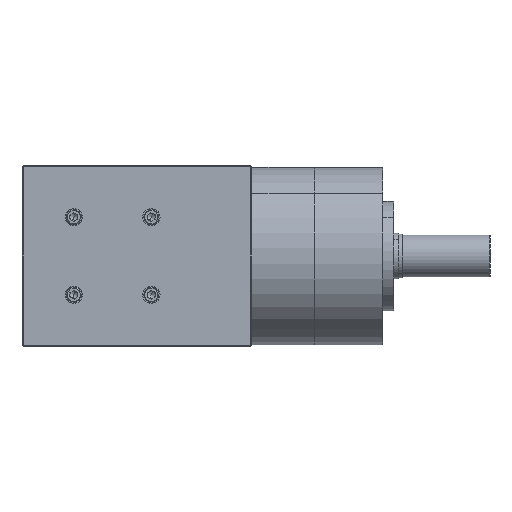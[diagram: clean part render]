
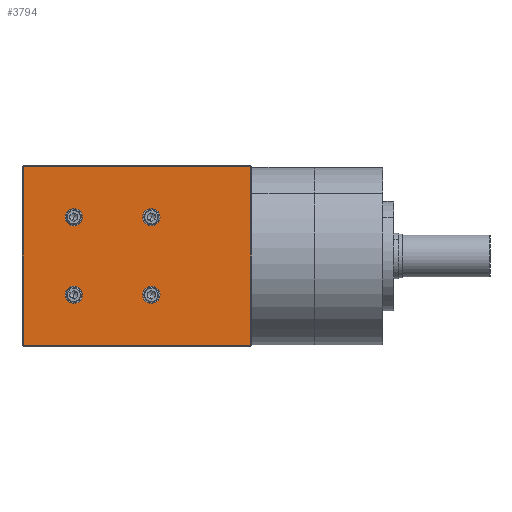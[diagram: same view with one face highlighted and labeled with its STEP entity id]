
A CAD part, front view. The second image highlights one B-rep face of the part: STEP entity #3794.
In plain terms, the highlighted planar face has unit normal (0, -1, 0).
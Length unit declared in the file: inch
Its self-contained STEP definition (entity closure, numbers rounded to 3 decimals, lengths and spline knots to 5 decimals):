
#296 = CARTESIAN_POINT ( 'NONE',  ( 9.96501, 0., 2.16525 ) ) ;
#298 = DIRECTION ( 'NONE',  ( 0., -1., 0. ) ) ;
#1128 = AXIS2_PLACEMENT_3D ( 'NONE', #34338, #12375, #43668 ) ;
#2094 = DIRECTION ( 'NONE',  ( 0., 0., -1. ) ) ;
#3151 = EDGE_CURVE ( 'NONE', #36047, #39631, #43458, .T. ) ;
#3794 = ADVANCED_FACE ( 'NONE', ( #16344, #7223, #49718, #18490, #50342 ), #34552, .F. ) ;
#3953 = DIRECTION ( 'NONE',  ( 1., 0., 0. ) ) ;
#4076 = DIRECTION ( 'NONE',  ( 0., -1., 0. ) ) ;
#4595 = CARTESIAN_POINT ( 'NONE',  ( 9.96501, 0., 0.9285 ) ) ;
#5296 = ORIENTED_EDGE ( 'NONE', *, *, #31178, .T. ) ;
#5646 = DIRECTION ( 'NONE',  ( 0., -1., 0. ) ) ;
#5842 = CARTESIAN_POINT ( 'NONE',  ( 7.66351, 0., 3.25 ) ) ;
#5936 = EDGE_CURVE ( 'NONE', #26729, #32952, #16162, .T. ) ;
#6038 = CARTESIAN_POINT ( 'NONE',  ( 9.96501, 0., 0.9285 ) ) ;
#6340 = VECTOR ( 'NONE', #14240, 39.37008 ) ;
#6745 = DIRECTION ( 'NONE',  ( 0., -1., 0. ) ) ;
#7223 = FACE_BOUND ( 'NONE', #55877, .T. ) ;
#8644 = CIRCLE ( 'NONE', #45501, 0.15625 ) ;
#9221 = DIRECTION ( 'NONE',  ( 0., 0., -1. ) ) ;
#9650 = DIRECTION ( 'NONE',  ( 0., -1., 0. ) ) ;
#10340 = DIRECTION ( 'NONE',  ( 0., 0., -1. ) ) ;
#10380 = AXIS2_PLACEMENT_3D ( 'NONE', #49230, #5646, #10340 ) ;
#10786 = CIRCLE ( 'NONE', #17380, 0.15625 ) ;
#11823 = CARTESIAN_POINT ( 'NONE',  ( 11.74851, 0., 3.25 ) ) ;
#12375 = DIRECTION ( 'NONE',  ( 0., 1., 0. ) ) ;
#13781 = DIRECTION ( 'NONE',  ( 0., 0., -1. ) ) ;
#14012 = AXIS2_PLACEMENT_3D ( 'NONE', #28340, #47138, #24878 ) ;
#14035 = LINE ( 'NONE', #5842, #6340 ) ;
#14240 = DIRECTION ( 'NONE',  ( 0., 0., -1. ) ) ;
#15743 = DIRECTION ( 'NONE',  ( 0., 0., -1. ) ) ;
#15999 = ORIENTED_EDGE ( 'NONE', *, *, #41753, .F. ) ;
#16162 = LINE ( 'NONE', #25919, #54346 ) ;
#16216 = LINE ( 'NONE', #11823, #19050 ) ;
#16344 = FACE_OUTER_BOUND ( 'NONE', #29567, .T. ) ;
#17380 = AXIS2_PLACEMENT_3D ( 'NONE', #55293, #28729, #2094 ) ;
#17724 = VERTEX_POINT ( 'NONE', #41470 ) ;
#17864 = ORIENTED_EDGE ( 'NONE', *, *, #46692, .F. ) ;
#18005 = DIRECTION ( 'NONE',  ( -1., 0., 0. ) ) ;
#18490 = FACE_BOUND ( 'NONE', #39379, .T. ) ;
#18507 = VECTOR ( 'NONE', #18005, 39.37008 ) ;
#18905 = CARTESIAN_POINT ( 'NONE',  ( 9.96501, 0., 0.77225 ) ) ;
#19050 = VECTOR ( 'NONE', #42925, 39.37008 ) ;
#19483 = VERTEX_POINT ( 'NONE', #31420 ) ;
#20933 = AXIS2_PLACEMENT_3D ( 'NONE', #26928, #298, #9221 ) ;
#22447 = ORIENTED_EDGE ( 'NONE', *, *, #3151, .T. ) ;
#22532 = EDGE_CURVE ( 'NONE', #46787, #29971, #32218, .T. ) ;
#23771 = DIRECTION ( 'NONE',  ( 0., -1., 0. ) ) ;
#24298 = CARTESIAN_POINT ( 'NONE',  ( 8.57201, 0., 2.16525 ) ) ;
#24878 = DIRECTION ( 'NONE',  ( 0., 0., -1. ) ) ;
#25919 = CARTESIAN_POINT ( 'NONE',  ( 7.64351, 0., 0.02 ) ) ;
#26729 = VERTEX_POINT ( 'NONE', #48523 ) ;
#26928 = CARTESIAN_POINT ( 'NONE',  ( 8.57201, 0., 2.3215 ) ) ;
#28340 = CARTESIAN_POINT ( 'NONE',  ( 8.57201, 0., 0.9285 ) ) ;
#28729 = DIRECTION ( 'NONE',  ( 0., -1., 0. ) ) ;
#29138 = CARTESIAN_POINT ( 'NONE',  ( 9.96501, 0., 2.3215 ) ) ;
#29567 = EDGE_LOOP ( 'NONE', ( #53996, #34164, #22447, #5296 ) ) ;
#29971 = VERTEX_POINT ( 'NONE', #296 ) ;
#30153 = CARTESIAN_POINT ( 'NONE',  ( 7.66351, 0., 3.23 ) ) ;
#31178 = EDGE_CURVE ( 'NONE', #39631, #26729, #14035, .T. ) ;
#31420 = CARTESIAN_POINT ( 'NONE',  ( 8.57201, 0., 0.77225 ) ) ;
#32218 = CIRCLE ( 'NONE', #54041, 0.15625 ) ;
#32952 = VERTEX_POINT ( 'NONE', #54508 ) ;
#34164 = ORIENTED_EDGE ( 'NONE', *, *, #48547, .T. ) ;
#34338 = CARTESIAN_POINT ( 'NONE',  ( 7.64351, 0., 3.25 ) ) ;
#34552 = PLANE ( 'NONE',  #1128 ) ;
#34755 = CIRCLE ( 'NONE', #40177, 0.15625 ) ;
#35537 = CARTESIAN_POINT ( 'NONE',  ( 9.96501, 0., 2.3215 ) ) ;
#36047 = VERTEX_POINT ( 'NONE', #49562 ) ;
#36243 = EDGE_CURVE ( 'NONE', #41477, #48445, #10786, .T. ) ;
#36251 = EDGE_CURVE ( 'NONE', #19483, #17724, #36563, .T. ) ;
#36563 = CIRCLE ( 'NONE', #14012, 0.15625 ) ;
#37290 = DIRECTION ( 'NONE',  ( 0., 0., -1. ) ) ;
#37474 = CARTESIAN_POINT ( 'NONE',  ( 8.57201, 0., 2.47775 ) ) ;
#37687 = VERTEX_POINT ( 'NONE', #50418 ) ;
#39379 = EDGE_LOOP ( 'NONE', ( #50940, #47350 ) ) ;
#39631 = VERTEX_POINT ( 'NONE', #30153 ) ;
#40177 = AXIS2_PLACEMENT_3D ( 'NONE', #6038, #23771, #37290 ) ;
#40529 = DIRECTION ( 'NONE',  ( 0., 0., -1. ) ) ;
#41470 = CARTESIAN_POINT ( 'NONE',  ( 8.57201, 0., 1.08475 ) ) ;
#41477 = VERTEX_POINT ( 'NONE', #24298 ) ;
#41486 = CIRCLE ( 'NONE', #53691, 0.15625 ) ;
#41753 = EDGE_CURVE ( 'NONE', #48445, #41477, #43788, .T. ) ;
#42925 = DIRECTION ( 'NONE',  ( 0., 0., 1. ) ) ;
#43458 = LINE ( 'NONE', #54220, #18507 ) ;
#43668 = DIRECTION ( 'NONE',  ( 0., 0., 1. ) ) ;
#43788 = CIRCLE ( 'NONE', #20933, 0.15625 ) ;
#44166 = EDGE_CURVE ( 'NONE', #49673, #37687, #41486, .T. ) ;
#44259 = ORIENTED_EDGE ( 'NONE', *, *, #36251, .F. ) ;
#45501 = AXIS2_PLACEMENT_3D ( 'NONE', #35537, #4076, #13781 ) ;
#46692 = EDGE_CURVE ( 'NONE', #29971, #46787, #8644, .T. ) ;
#46715 = ORIENTED_EDGE ( 'NONE', *, *, #22532, .F. ) ;
#46787 = VERTEX_POINT ( 'NONE', #57279 ) ;
#47138 = DIRECTION ( 'NONE',  ( 0., -1., 0. ) ) ;
#47350 = ORIENTED_EDGE ( 'NONE', *, *, #57330, .F. ) ;
#47912 = EDGE_LOOP ( 'NONE', ( #17864, #46715 ) ) ;
#48445 = VERTEX_POINT ( 'NONE', #37474 ) ;
#48523 = CARTESIAN_POINT ( 'NONE',  ( 7.66351, 0., 0.02 ) ) ;
#48547 = EDGE_CURVE ( 'NONE', #32952, #36047, #16216, .T. ) ;
#49230 = CARTESIAN_POINT ( 'NONE',  ( 8.57201, 0., 0.9285 ) ) ;
#49562 = CARTESIAN_POINT ( 'NONE',  ( 11.74851, 0., 3.23 ) ) ;
#49673 = VERTEX_POINT ( 'NONE', #18905 ) ;
#49718 = FACE_BOUND ( 'NONE', #52891, .T. ) ;
#50342 = FACE_BOUND ( 'NONE', #47912, .T. ) ;
#50418 = CARTESIAN_POINT ( 'NONE',  ( 9.96501, 0., 1.08475 ) ) ;
#50710 = CIRCLE ( 'NONE', #10380, 0.15625 ) ;
#50940 = ORIENTED_EDGE ( 'NONE', *, *, #44166, .F. ) ;
#52396 = ORIENTED_EDGE ( 'NONE', *, *, #36243, .F. ) ;
#52568 = ORIENTED_EDGE ( 'NONE', *, *, #57264, .F. ) ;
#52891 = EDGE_LOOP ( 'NONE', ( #44259, #52568 ) ) ;
#53691 = AXIS2_PLACEMENT_3D ( 'NONE', #4595, #9650, #40529 ) ;
#53996 = ORIENTED_EDGE ( 'NONE', *, *, #5936, .T. ) ;
#54041 = AXIS2_PLACEMENT_3D ( 'NONE', #29138, #6745, #15743 ) ;
#54220 = CARTESIAN_POINT ( 'NONE',  ( 7.64351, 0., 3.23 ) ) ;
#54346 = VECTOR ( 'NONE', #3953, 39.37008 ) ;
#54508 = CARTESIAN_POINT ( 'NONE',  ( 11.74851, 0., 0.02 ) ) ;
#55293 = CARTESIAN_POINT ( 'NONE',  ( 8.57201, 0., 2.3215 ) ) ;
#55877 = EDGE_LOOP ( 'NONE', ( #52396, #15999 ) ) ;
#57264 = EDGE_CURVE ( 'NONE', #17724, #19483, #50710, .T. ) ;
#57279 = CARTESIAN_POINT ( 'NONE',  ( 9.96501, 0., 2.47775 ) ) ;
#57330 = EDGE_CURVE ( 'NONE', #37687, #49673, #34755, .T. ) ;
